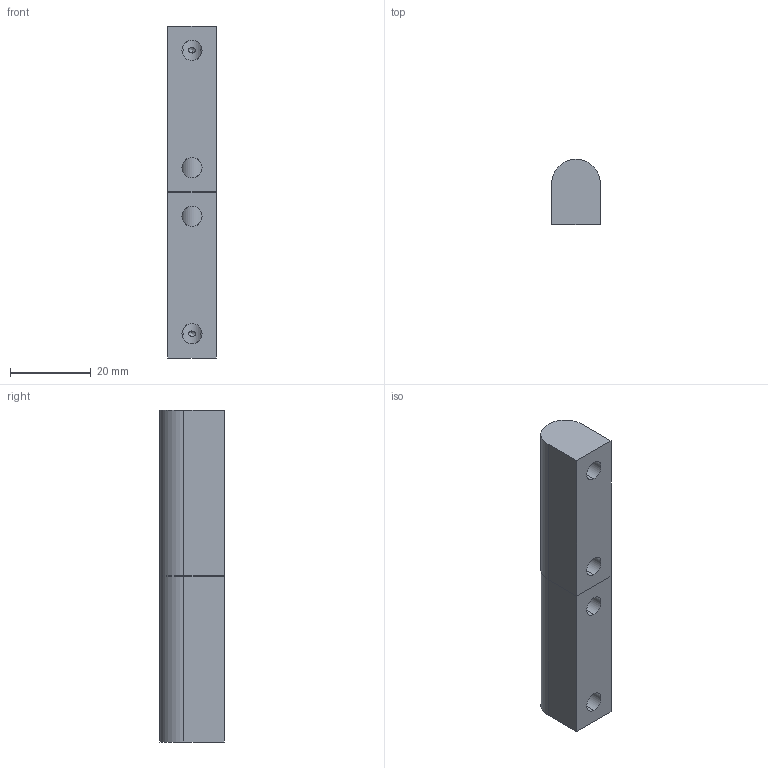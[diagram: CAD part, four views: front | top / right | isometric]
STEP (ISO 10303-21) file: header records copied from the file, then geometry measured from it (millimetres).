
FILE_DESCRIPTION (( 'STEP AP203' ), '1' );
FILE_NAME ('XG02-029-1.STEP', '2023-12-07T03:28:58', ( '' ), ( '' ), 'SwSTEP 2.0', 'SolidWorks 2020', '' );
FILE_SCHEMA (( 'CONFIG_CONTROL_DESIGN' ));
Length unit declared in the file: millimetre
Products named in the file (4): XG02-029-1; 种赽; HL008; HL008 - a
Assembly tree (3 placements, depth 2):
  XG02-029-1
    HL008
    种赽
    HL008 - a
Bounding box: 12 x 16 x 82 mm (x, y, z)
Volume: 12615.7 mm3; surface area: 7408.5 mm2
Topology: 3 solids, 3 shells, 60 faces, 130 edges, 78 vertices
Faces by surface type: cylinder 24, cone 24, plane 12
Entity records: 2404 total; most frequent: CARTESIAN_POINT 758, DIRECTION 254, ORIENTED_EDGE 236, EDGE_CURVE 118, AXIS2_PLACEMENT_3D 102, EDGE_LOOP 82, VERTEX_POINT 78, ADVANCED_FACE 60
